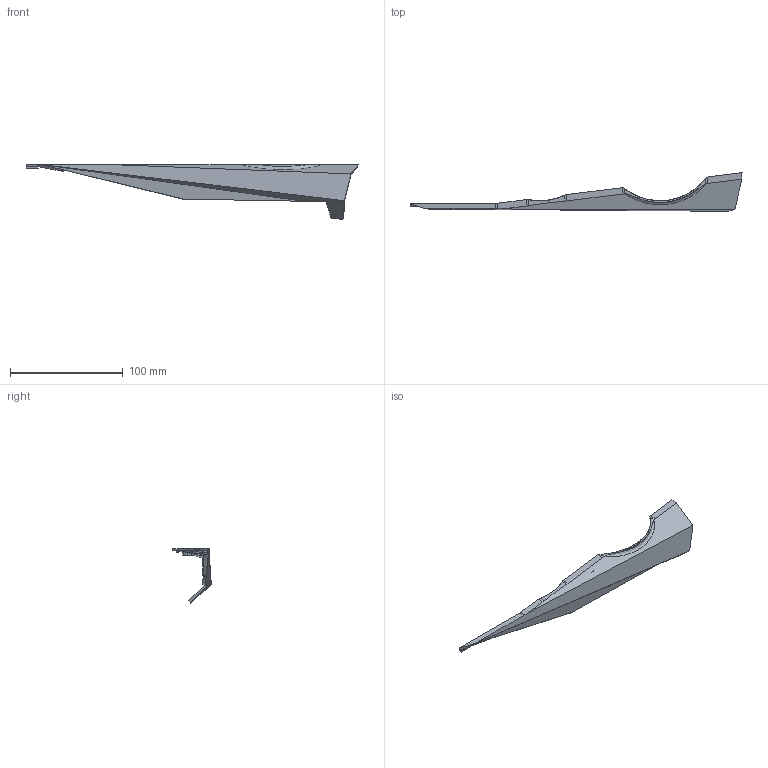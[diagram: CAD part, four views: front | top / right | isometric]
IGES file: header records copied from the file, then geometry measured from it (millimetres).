
Start section: SolidWorks IGES file using analytic representation for surfaces
Global section: file name: C:\Users\Automoton\Desktop\XFX SWFT 3D Printing Assets 3725\SWFT 2025 3D 3725.IGS; native system: SolidWorks 2023; preprocessor: SolidWorks 2023; author: Automoton; date: 250307.162156; units: millimetre
Bounding box: 294.39 x 34.16 x 48.58 mm (x, y, z)
Surface area: 21907.9 mm2 (no closed solid volume)
Topology: 0 solids, 0 shells, 218 faces, 2066 edges, 2065 vertices
Faces by surface type: bspline 182, revolution 36
